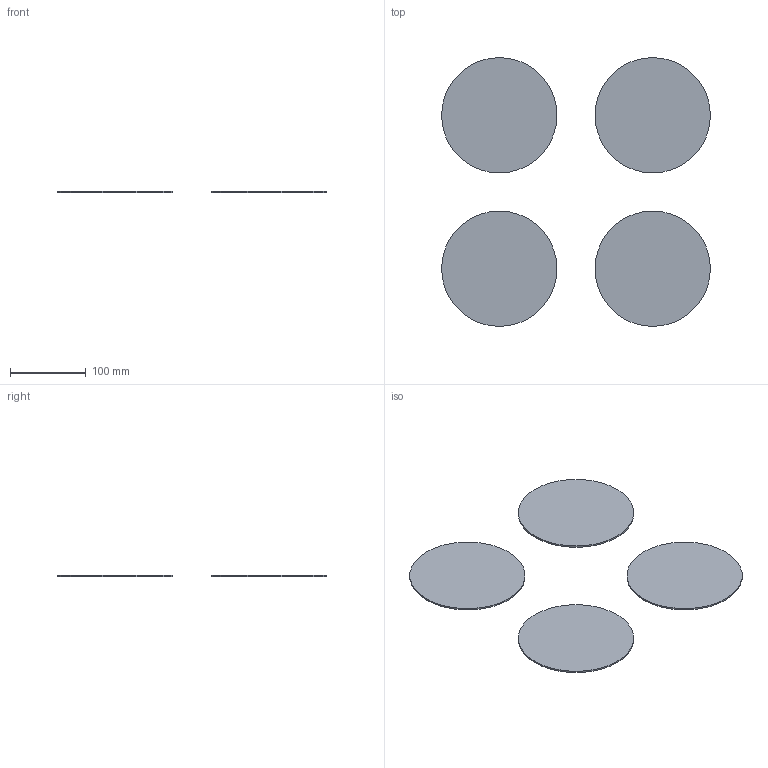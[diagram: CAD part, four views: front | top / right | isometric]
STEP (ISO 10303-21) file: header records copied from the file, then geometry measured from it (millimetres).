
FILE_DESCRIPTION(('FreeCAD Model'),'2;1');
FILE_NAME('Open CASCADE Shape Model','2026-10-22T12:56:02',('FreeCAD'),( 'FreeCAD'),'Open CASCADE STEP processor 8.0','FreeCAD','Unknown');
FILE_SCHEMA(('AUTOMOTIVE_DESIGN { 1 0 10303 214 1 1 1 1 }'));
Length unit declared in the file: millimetre
Products named in the file (1): Open CASCADE STEP translator 8.0 5
Bounding box: 354.23 x 354.23 x 2 mm (x, y, z)
Volume: 145166.7 mm3; surface area: 148986.9 mm2
Topology: 4 solids, 4 shells, 12 faces, 12 edges, 8 vertices
Faces by surface type: plane 8, cylinder 4
Full cylindrical faces by diameter (mm): 152 x4
Entity records: 228 total; most frequent: DIRECTION 46, CARTESIAN_POINT 33, ORIENTED_EDGE 24, AXIS2_PLACEMENT_3D 21, ADVANCED_FACE 12, FACE_BOUND 12, EDGE_LOOP 12, EDGE_CURVE 12
